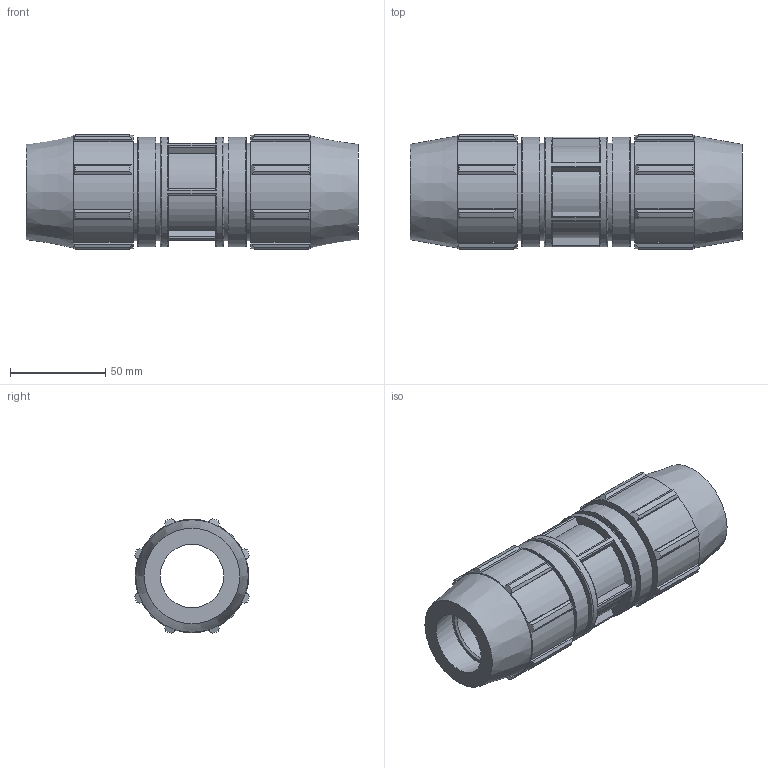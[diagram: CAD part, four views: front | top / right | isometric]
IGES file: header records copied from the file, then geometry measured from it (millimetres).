
Global section: file name: 0761M0010.ipt; native system: Autodesk Inventor 2019; preprocessor: unknown; author: KIM; date: 20210826.124843; units: inch
Bounding box: 173.99 x 60.23 x 60.23 mm (x, y, z)
Volume: 276857.1 mm3; surface area: 60880.9 mm2
Topology: 1 solids, 1 shells, 200 faces, 559 edges, 376 vertices
Faces by surface type: plane 100, cylinder 57, revolution 23, cone 20
Full cylindrical faces by diameter (mm): 51.206 x4, 57.607 x3
